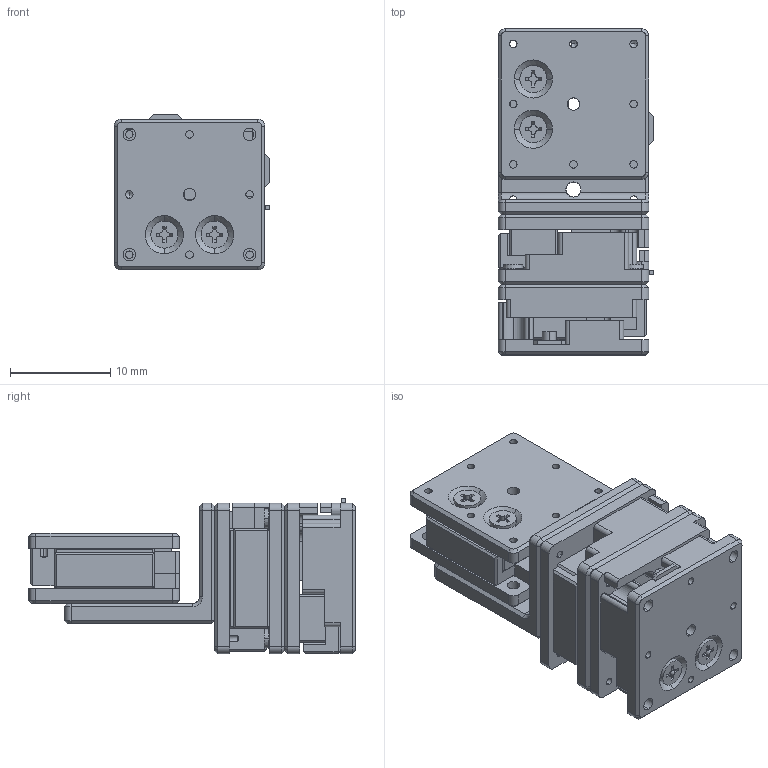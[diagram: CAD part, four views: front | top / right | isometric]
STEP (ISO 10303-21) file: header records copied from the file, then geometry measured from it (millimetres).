
FILE_DESCRIPTION (( 'STEP AP214' ), '1' );
FILE_NAME ('N11.XYZ3.5K直线压电马达(25.03.27）.STEP', '2025-04-02T08:52:55', ( '微软用户' ), ( '微软中国' ), 'SwSTEP 2.0', 'SolidWorks 2016', '' );
FILE_SCHEMA (( 'AUTOMOTIVE_DESIGN' ));
Length unit declared in the file: millimetre
Products named in the file (1): N11.XYZ3.5K直线压电马达(25.03.27）
Bounding box: 15.5 x 32.5 x 15.5 mm (x, y, z)
Volume: 4081.6 mm3; surface area: 7194.9 mm2
Topology: 40 solids, 40 shells, 1453 faces, 3790 edges, 2435 vertices
Faces by surface type: plane 745, cylinder 500, cone 160, bspline 48
Entity records: 47041 total; most frequent: CARTESIAN_POINT 9357, DIRECTION 7796, ORIENTED_EDGE 7528, EDGE_CURVE 3764, AXIS2_PLACEMENT_3D 2684, VERTEX_POINT 2435, LINE 2428, VECTOR 2428
